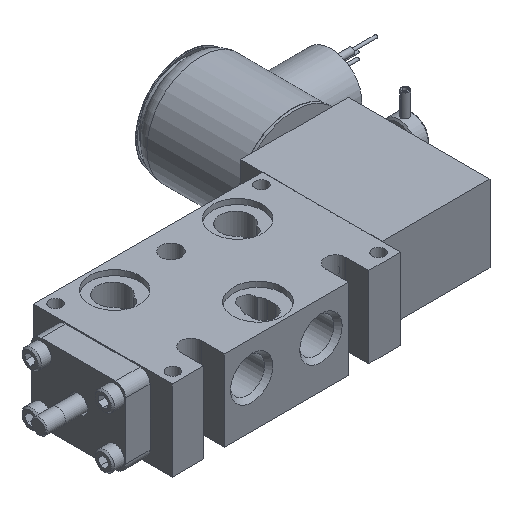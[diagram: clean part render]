
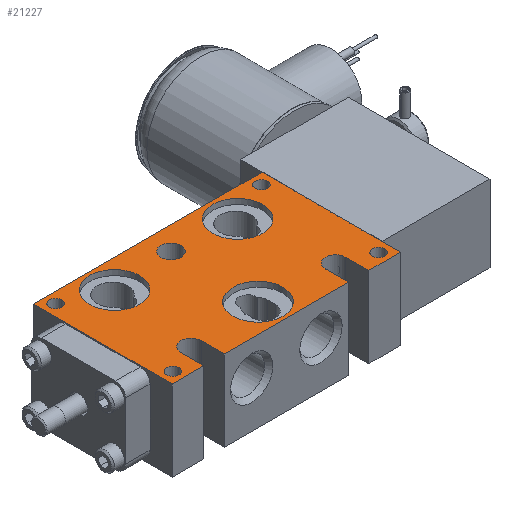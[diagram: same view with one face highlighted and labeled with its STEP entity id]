
A CAD part, isometric view. The second image highlights one B-rep face of the part: STEP entity #21227.
In plain terms, the highlighted planar face has unit normal (0, 0, 1).
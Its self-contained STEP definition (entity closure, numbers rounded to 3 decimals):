
#828=FACE_BOUND('',#6377,.T.);
#829=FACE_BOUND('',#6378,.T.);
#830=FACE_BOUND('',#6379,.T.);
#831=FACE_BOUND('',#6380,.T.);
#832=FACE_BOUND('',#6381,.T.);
#833=FACE_BOUND('',#6382,.T.);
#834=FACE_BOUND('',#6383,.T.);
#835=FACE_BOUND('',#6384,.T.);
#2037=LINE('',#38452,#3388);
#2047=LINE('',#38493,#3398);
#2057=LINE('',#38527,#3408);
#2144=LINE('',#39464,#3495);
#2146=LINE('',#39468,#3497);
#2149=LINE('',#39476,#3500);
#2151=LINE('',#39480,#3502);
#2153=LINE('',#39484,#3504);
#2156=LINE('',#39492,#3507);
#2158=LINE('',#39495,#3509);
#3388=VECTOR('',#27705,1.);
#3398=VECTOR('',#27739,1.);
#3408=VECTOR('',#27767,1.);
#3495=VECTOR('',#28348,1.);
#3497=VECTOR('',#28352,1.);
#3500=VECTOR('',#28361,1.);
#3502=VECTOR('',#28365,1.);
#3504=VECTOR('',#28369,1.);
#3507=VECTOR('',#28378,1.);
#3509=VECTOR('',#28382,1.);
#5014=FACE_OUTER_BOUND('',#6376,.T.);
#6376=EDGE_LOOP('',(#17335,#17336,#17337,#17338,#17339,#17340,#17341,#17342,
#17343,#17344,#17345,#17346));
#6377=EDGE_LOOP('',(#17347,#17348));
#6378=EDGE_LOOP('',(#17349));
#6379=EDGE_LOOP('',(#17350));
#6380=EDGE_LOOP('',(#17351));
#6381=EDGE_LOOP('',(#17352,#17353));
#6382=EDGE_LOOP('',(#17354,#17355));
#6383=EDGE_LOOP('',(#17356,#17357));
#6384=EDGE_LOOP('',(#17358,#17359));
#7577=CIRCLE('',#23234,0.417);
#7578=CIRCLE('',#23235,0.417);
#7613=CIRCLE('',#23288,1.031);
#7615=CIRCLE('',#23292,1.031);
#7616=CIRCLE('',#23294,1.031);
#7618=CIRCLE('',#23298,0.258);
#7619=CIRCLE('',#23299,0.258);
#7620=CIRCLE('',#23301,0.258);
#7621=CIRCLE('',#23302,0.258);
#7622=CIRCLE('',#23304,0.258);
#7623=CIRCLE('',#23305,0.258);
#7624=CIRCLE('',#23307,0.258);
#7625=CIRCLE('',#23308,0.258);
#7626=CIRCLE('',#23312,0.417);
#7627=CIRCLE('',#23317,0.417);
#9214=VERTEX_POINT('',#38450);
#9215=VERTEX_POINT('',#38451);
#9233=VERTEX_POINT('',#38491);
#9234=VERTEX_POINT('',#38492);
#9373=VERTEX_POINT('',#39297);
#9374=VERTEX_POINT('',#39298);
#9417=VERTEX_POINT('',#39421);
#9419=VERTEX_POINT('',#39428);
#9420=VERTEX_POINT('',#39432);
#9422=VERTEX_POINT('',#39439);
#9423=VERTEX_POINT('',#39440);
#9424=VERTEX_POINT('',#39445);
#9425=VERTEX_POINT('',#39446);
#9426=VERTEX_POINT('',#39451);
#9427=VERTEX_POINT('',#39452);
#9428=VERTEX_POINT('',#39457);
#9429=VERTEX_POINT('',#39458);
#9430=VERTEX_POINT('',#39463);
#9431=VERTEX_POINT('',#39467);
#9432=VERTEX_POINT('',#39471);
#9433=VERTEX_POINT('',#39475);
#9434=VERTEX_POINT('',#39479);
#9435=VERTEX_POINT('',#39483);
#9436=VERTEX_POINT('',#39487);
#9437=VERTEX_POINT('',#39491);
#11877=EDGE_CURVE('',#9214,#9215,#2037,.T.);
#11896=EDGE_CURVE('',#9233,#9234,#2047,.T.);
#11913=EDGE_CURVE('',#9234,#9214,#2057,.T.);
#12094=EDGE_CURVE('',#9373,#9374,#7577,.T.);
#12095=EDGE_CURVE('',#9374,#9373,#7578,.T.);
#12156=EDGE_CURVE('',#9417,#9417,#7613,.T.);
#12159=EDGE_CURVE('',#9419,#9419,#7615,.T.);
#12161=EDGE_CURVE('',#9420,#9420,#7616,.T.);
#12164=EDGE_CURVE('',#9422,#9423,#7618,.T.);
#12165=EDGE_CURVE('',#9423,#9422,#7619,.T.);
#12167=EDGE_CURVE('',#9424,#9425,#7620,.T.);
#12168=EDGE_CURVE('',#9425,#9424,#7621,.T.);
#12170=EDGE_CURVE('',#9426,#9427,#7622,.T.);
#12171=EDGE_CURVE('',#9427,#9426,#7623,.T.);
#12173=EDGE_CURVE('',#9428,#9429,#7624,.T.);
#12174=EDGE_CURVE('',#9429,#9428,#7625,.T.);
#12176=EDGE_CURVE('',#9215,#9430,#2144,.T.);
#12178=EDGE_CURVE('',#9430,#9431,#2146,.T.);
#12180=EDGE_CURVE('',#9431,#9432,#7626,.T.);
#12182=EDGE_CURVE('',#9432,#9433,#2149,.T.);
#12184=EDGE_CURVE('',#9433,#9434,#2151,.T.);
#12186=EDGE_CURVE('',#9434,#9435,#2153,.T.);
#12188=EDGE_CURVE('',#9435,#9436,#7627,.T.);
#12190=EDGE_CURVE('',#9436,#9437,#2156,.T.);
#12192=EDGE_CURVE('',#9437,#9233,#2158,.T.);
#17335=ORIENTED_EDGE('',*,*,#11913,.F.);
#17336=ORIENTED_EDGE('',*,*,#11896,.F.);
#17337=ORIENTED_EDGE('',*,*,#12192,.F.);
#17338=ORIENTED_EDGE('',*,*,#12190,.F.);
#17339=ORIENTED_EDGE('',*,*,#12188,.F.);
#17340=ORIENTED_EDGE('',*,*,#12186,.F.);
#17341=ORIENTED_EDGE('',*,*,#12184,.F.);
#17342=ORIENTED_EDGE('',*,*,#12182,.F.);
#17343=ORIENTED_EDGE('',*,*,#12180,.F.);
#17344=ORIENTED_EDGE('',*,*,#12178,.F.);
#17345=ORIENTED_EDGE('',*,*,#12176,.F.);
#17346=ORIENTED_EDGE('',*,*,#11877,.F.);
#17347=ORIENTED_EDGE('',*,*,#12094,.T.);
#17348=ORIENTED_EDGE('',*,*,#12095,.T.);
#17349=ORIENTED_EDGE('',*,*,#12156,.T.);
#17350=ORIENTED_EDGE('',*,*,#12159,.T.);
#17351=ORIENTED_EDGE('',*,*,#12161,.T.);
#17352=ORIENTED_EDGE('',*,*,#12164,.T.);
#17353=ORIENTED_EDGE('',*,*,#12165,.T.);
#17354=ORIENTED_EDGE('',*,*,#12167,.T.);
#17355=ORIENTED_EDGE('',*,*,#12168,.T.);
#17356=ORIENTED_EDGE('',*,*,#12170,.T.);
#17357=ORIENTED_EDGE('',*,*,#12171,.T.);
#17358=ORIENTED_EDGE('',*,*,#12173,.T.);
#17359=ORIENTED_EDGE('',*,*,#12174,.T.);
#19392=PLANE('',#23320);
#21227=ADVANCED_FACE('',(#5014,#828,#829,#830,#831,#832,#833,#834,#835),
#19392,.T.);
#23234=AXIS2_PLACEMENT_3D('',#39299,#28163,#28164);
#23235=AXIS2_PLACEMENT_3D('',#39300,#28165,#28166);
#23288=AXIS2_PLACEMENT_3D('',#39422,#28297,#28298);
#23292=AXIS2_PLACEMENT_3D('',#39429,#28306,#28307);
#23294=AXIS2_PLACEMENT_3D('',#39433,#28311,#28312);
#23298=AXIS2_PLACEMENT_3D('',#39441,#28320,#28321);
#23299=AXIS2_PLACEMENT_3D('',#39442,#28322,#28323);
#23301=AXIS2_PLACEMENT_3D('',#39447,#28327,#28328);
#23302=AXIS2_PLACEMENT_3D('',#39448,#28329,#28330);
#23304=AXIS2_PLACEMENT_3D('',#39453,#28334,#28335);
#23305=AXIS2_PLACEMENT_3D('',#39454,#28336,#28337);
#23307=AXIS2_PLACEMENT_3D('',#39459,#28341,#28342);
#23308=AXIS2_PLACEMENT_3D('',#39460,#28343,#28344);
#23312=AXIS2_PLACEMENT_3D('',#39472,#28356,#28357);
#23317=AXIS2_PLACEMENT_3D('',#39488,#28373,#28374);
#23320=AXIS2_PLACEMENT_3D('',#39496,#28383,#28384);
#27705=DIRECTION('',(0.,-1.,0.));
#27739=DIRECTION('',(0.,1.,0.));
#27767=DIRECTION('',(1.,0.,0.));
#28163=DIRECTION('center_axis',(0.,0.,-1.));
#28164=DIRECTION('ref_axis',(1.,0.,0.));
#28165=DIRECTION('center_axis',(0.,0.,-1.));
#28166=DIRECTION('ref_axis',(1.,0.,0.));
#28297=DIRECTION('center_axis',(0.,0.,-1.));
#28298=DIRECTION('ref_axis',(-1.,0.,0.));
#28306=DIRECTION('center_axis',(0.,0.,-1.));
#28307=DIRECTION('ref_axis',(-1.,0.,0.));
#28311=DIRECTION('center_axis',(0.,0.,-1.));
#28312=DIRECTION('ref_axis',(-1.,0.,0.));
#28320=DIRECTION('center_axis',(0.,0.,-1.));
#28321=DIRECTION('ref_axis',(1.,0.,0.));
#28322=DIRECTION('center_axis',(0.,0.,-1.));
#28323=DIRECTION('ref_axis',(1.,0.,0.));
#28327=DIRECTION('center_axis',(0.,0.,-1.));
#28328=DIRECTION('ref_axis',(1.,0.,0.));
#28329=DIRECTION('center_axis',(0.,0.,-1.));
#28330=DIRECTION('ref_axis',(1.,0.,0.));
#28334=DIRECTION('center_axis',(0.,0.,-1.));
#28335=DIRECTION('ref_axis',(1.,0.,0.));
#28336=DIRECTION('center_axis',(0.,0.,-1.));
#28337=DIRECTION('ref_axis',(1.,0.,0.));
#28341=DIRECTION('center_axis',(0.,0.,-1.));
#28342=DIRECTION('ref_axis',(1.,0.,0.));
#28343=DIRECTION('center_axis',(0.,0.,-1.));
#28344=DIRECTION('ref_axis',(1.,0.,0.));
#28348=DIRECTION('',(-1.,0.,0.));
#28352=DIRECTION('',(0.,1.,0.));
#28356=DIRECTION('center_axis',(0.,0.,1.));
#28357=DIRECTION('ref_axis',(1.,0.,0.));
#28361=DIRECTION('',(0.,-1.,0.));
#28365=DIRECTION('',(-1.,0.,0.));
#28369=DIRECTION('',(0.,1.,0.));
#28373=DIRECTION('center_axis',(0.,0.,1.));
#28374=DIRECTION('ref_axis',(1.,0.,0.));
#28378=DIRECTION('',(0.,-1.,0.));
#28382=DIRECTION('',(-1.,0.,0.));
#28383=DIRECTION('center_axis',(0.,0.,1.));
#28384=DIRECTION('ref_axis',(1.,0.,0.));
#38450=CARTESIAN_POINT('',(4.712,2.858,1.666));
#38451=CARTESIAN_POINT('',(4.712,-2.858,1.666));
#38452=CARTESIAN_POINT('',(4.712,2.858,1.666));
#38491=CARTESIAN_POINT('',(-4.712,-2.858,1.666));
#38492=CARTESIAN_POINT('',(-4.712,2.858,1.666));
#38493=CARTESIAN_POINT('',(-4.712,-2.858,1.666));
#38527=CARTESIAN_POINT('',(-4.712,2.858,1.666));
#39297=CARTESIAN_POINT('',(0.417,1.905,1.666));
#39298=CARTESIAN_POINT('',(-0.417,1.905,1.666));
#39299=CARTESIAN_POINT('Origin',(0.,1.905,1.666));
#39300=CARTESIAN_POINT('Origin',(0.,1.905,1.666));
#39421=CARTESIAN_POINT('',(3.571,1.689,1.666));
#39422=CARTESIAN_POINT('Origin',(2.54,1.689,1.666));
#39428=CARTESIAN_POINT('',(1.031,-1.689,1.666));
#39429=CARTESIAN_POINT('Origin',(0.,-1.689,1.666));
#39432=CARTESIAN_POINT('',(-1.509,1.689,1.666));
#39433=CARTESIAN_POINT('Origin',(-2.54,1.689,1.666));
#39439=CARTESIAN_POINT('',(4.505,-2.421,1.666));
#39440=CARTESIAN_POINT('',(3.989,-2.421,1.666));
#39441=CARTESIAN_POINT('Origin',(4.247,-2.421,1.666));
#39442=CARTESIAN_POINT('Origin',(4.247,-2.421,1.666));
#39445=CARTESIAN_POINT('',(-3.987,-2.421,1.666));
#39446=CARTESIAN_POINT('',(-4.502,-2.421,1.666));
#39447=CARTESIAN_POINT('Origin',(-4.244,-2.421,1.666));
#39448=CARTESIAN_POINT('Origin',(-4.244,-2.421,1.666));
#39451=CARTESIAN_POINT('',(4.505,2.421,1.666));
#39452=CARTESIAN_POINT('',(3.989,2.421,1.666));
#39453=CARTESIAN_POINT('Origin',(4.247,2.421,1.666));
#39454=CARTESIAN_POINT('Origin',(4.247,2.421,1.666));
#39457=CARTESIAN_POINT('',(-3.987,2.421,1.666));
#39458=CARTESIAN_POINT('',(-4.502,2.421,1.666));
#39459=CARTESIAN_POINT('Origin',(-4.244,2.421,1.666));
#39460=CARTESIAN_POINT('Origin',(-4.244,2.421,1.666));
#39463=CARTESIAN_POINT('',(3.401,-2.857,1.666));
#39464=CARTESIAN_POINT('',(4.712,-2.858,1.666));
#39467=CARTESIAN_POINT('',(3.401,-1.905,1.666));
#39468=CARTESIAN_POINT('',(3.401,-2.857,1.666));
#39471=CARTESIAN_POINT('',(2.568,-1.905,1.666));
#39472=CARTESIAN_POINT('Origin',(2.985,-1.905,1.666));
#39475=CARTESIAN_POINT('',(2.568,-2.858,1.666));
#39476=CARTESIAN_POINT('',(2.568,-1.905,1.666));
#39479=CARTESIAN_POINT('',(-2.568,-2.858,1.666));
#39480=CARTESIAN_POINT('',(2.568,-2.858,1.666));
#39483=CARTESIAN_POINT('',(-2.568,-1.905,1.666));
#39484=CARTESIAN_POINT('',(-2.568,-2.858,1.666));
#39487=CARTESIAN_POINT('',(-3.401,-1.905,1.666));
#39488=CARTESIAN_POINT('Origin',(-2.985,-1.905,1.666));
#39491=CARTESIAN_POINT('',(-3.401,-2.858,1.666));
#39492=CARTESIAN_POINT('',(-3.401,-1.905,1.666));
#39495=CARTESIAN_POINT('',(-3.401,-2.858,1.666));
#39496=CARTESIAN_POINT('Origin',(0.,-0.247,
1.666));
